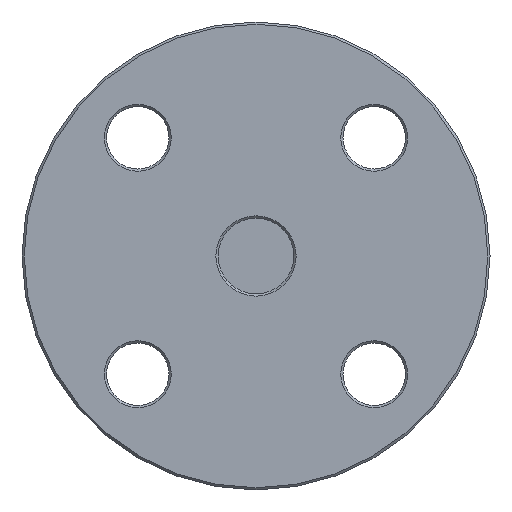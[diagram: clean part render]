
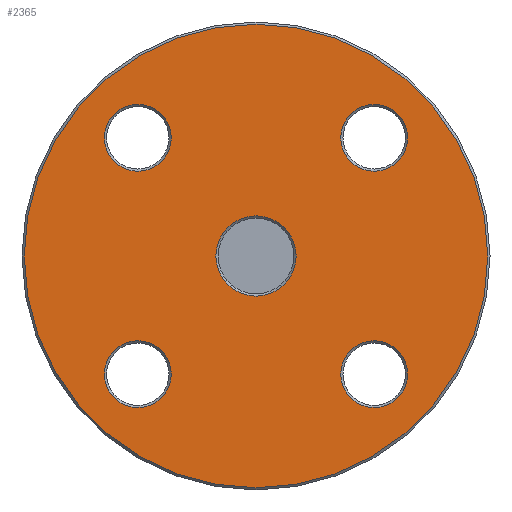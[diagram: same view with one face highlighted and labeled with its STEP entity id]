
A CAD part, left-side view. The second image highlights one B-rep face of the part: STEP entity #2365.
In plain terms, the highlighted planar face has unit normal (-1, 0, 0).
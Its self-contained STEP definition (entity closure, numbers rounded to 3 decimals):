
#137=FACE_BOUND('',#369,.T.);
#138=FACE_BOUND('',#370,.T.);
#139=FACE_BOUND('',#371,.T.);
#140=FACE_BOUND('',#372,.T.);
#141=FACE_BOUND('',#373,.T.);
#159=PLANE('',#2538);
#220=FACE_OUTER_BOUND('',#368,.T.);
#368=EDGE_LOOP('',(#1492));
#369=EDGE_LOOP('',(#1493));
#370=EDGE_LOOP('',(#1494));
#371=EDGE_LOOP('',(#1495));
#372=EDGE_LOOP('',(#1496));
#373=EDGE_LOOP('',(#1497));
#777=CIRCLE('',#2536,7.5);
#779=CIRCLE('',#2539,52.);
#780=CIRCLE('',#2540,7.5);
#781=CIRCLE('',#2541,7.5);
#782=CIRCLE('',#2542,7.5);
#783=CIRCLE('',#2543,9.);
#930=VERTEX_POINT('',#3562);
#932=VERTEX_POINT('',#3568);
#933=VERTEX_POINT('',#3570);
#934=VERTEX_POINT('',#3572);
#935=VERTEX_POINT('',#3574);
#936=VERTEX_POINT('',#3576);
#1143=EDGE_CURVE('',#930,#930,#777,.T.);
#1146=EDGE_CURVE('',#932,#932,#779,.T.);
#1147=EDGE_CURVE('',#933,#933,#780,.T.);
#1148=EDGE_CURVE('',#934,#934,#781,.T.);
#1149=EDGE_CURVE('',#935,#935,#782,.T.);
#1150=EDGE_CURVE('',#936,#936,#783,.T.);
#1492=ORIENTED_EDGE('',*,*,#1146,.F.);
#1493=ORIENTED_EDGE('',*,*,#1147,.F.);
#1494=ORIENTED_EDGE('',*,*,#1148,.F.);
#1495=ORIENTED_EDGE('',*,*,#1149,.F.);
#1496=ORIENTED_EDGE('',*,*,#1150,.F.);
#1497=ORIENTED_EDGE('',*,*,#1143,.F.);
#2365=ADVANCED_FACE('',(#220,#137,#138,#139,#140,#141),#159,.T.);
#2536=AXIS2_PLACEMENT_3D('',#3563,#2840,#2841);
#2538=AXIS2_PLACEMENT_3D('',#3567,#2845,#2846);
#2539=AXIS2_PLACEMENT_3D('',#3569,#2847,#2848);
#2540=AXIS2_PLACEMENT_3D('',#3571,#2849,#2850);
#2541=AXIS2_PLACEMENT_3D('',#3573,#2851,#2852);
#2542=AXIS2_PLACEMENT_3D('',#3575,#2853,#2854);
#2543=AXIS2_PLACEMENT_3D('',#3577,#2855,#2856);
#2840=DIRECTION('center_axis',(-1.,0.,0.));
#2841=DIRECTION('ref_axis',(0.,0.,
1.));
#2845=DIRECTION('center_axis',(-1.,0.,0.));
#2846=DIRECTION('ref_axis',(0.,0.,1.));
#2847=DIRECTION('center_axis',(1.,0.,0.));
#2848=DIRECTION('ref_axis',(0.,-1.,0.));
#2849=DIRECTION('center_axis',(-1.,0.,0.));
#2850=DIRECTION('ref_axis',(0.,-1.,0.));
#2851=DIRECTION('center_axis',(-1.,0.,0.));
#2852=DIRECTION('ref_axis',(0.,1.,0.));
#2853=DIRECTION('center_axis',(-1.,0.,0.));
#2854=DIRECTION('ref_axis',(0.,0.,-1.));
#2855=DIRECTION('center_axis',(-1.,0.,0.));
#2856=DIRECTION('ref_axis',(0.,-1.,0.));
#3562=CARTESIAN_POINT('',(-121.144,32.614,19.017));
#3563=CARTESIAN_POINT('Origin',(-121.144,32.614,26.517));
#3567=CARTESIAN_POINT('Origin',(-121.144,67.631,0.));
#3568=CARTESIAN_POINT('',(-121.144,111.131,0.));
#3569=CARTESIAN_POINT('Origin',(-121.144,59.131,0.));
#3570=CARTESIAN_POINT('',(-121.144,40.114,-26.517));
#3571=CARTESIAN_POINT('Origin',(-121.144,32.614,-26.517));
#3572=CARTESIAN_POINT('',(-121.144,78.147,26.517));
#3573=CARTESIAN_POINT('Origin',(-121.144,85.647,26.517));
#3574=CARTESIAN_POINT('',(-121.144,85.647,-19.017));
#3575=CARTESIAN_POINT('Origin',(-121.144,85.647,-26.517));
#3576=CARTESIAN_POINT('',(-121.144,68.131,0.));
#3577=CARTESIAN_POINT('Origin',(-121.144,59.131,0.));
